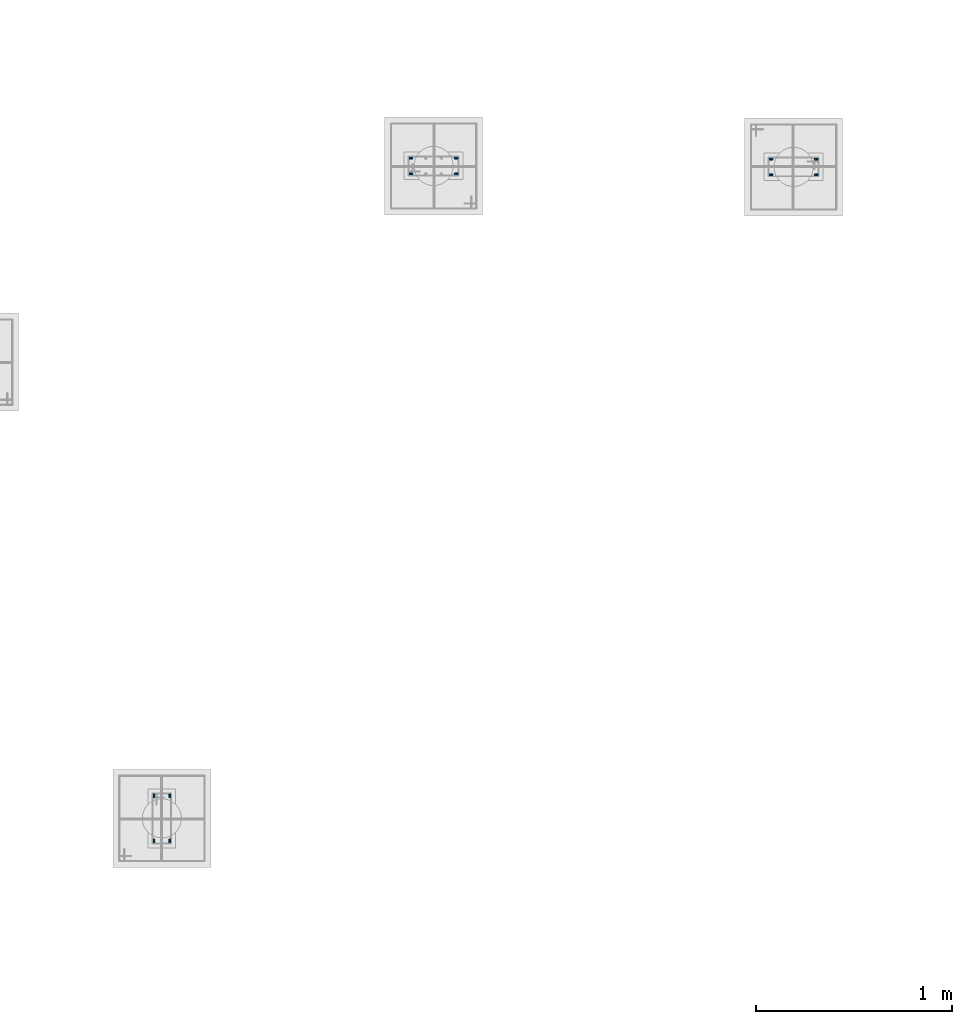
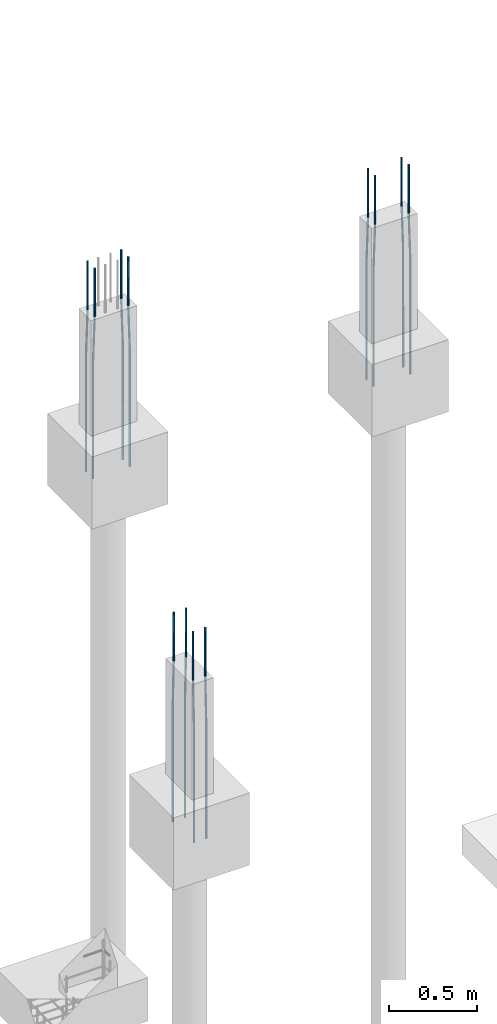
# One storey, part 35 of 119: 12 reinforcing bars.
"""IFC4 building model written with IfcOpenShell, lengths in centimetres."""

import ifcopenshell
import ifcopenshell.guid

model = None  # the IFC model being written
_history = None  # IfcOwnerHistory: only IFC2X3 demands one
_inside = {}  # id of a spatial element -> (the spatial element, [elements in it])
_under = {}  # id of a project, library or spatial element -> (it, [spatial elements below it])
_declared = {}  # id of a project -> (the project, [libraries it declares])
_typed = {}  # id of a type object -> (the type object, [elements of that type])
_made_of = {}  # id of a material, layer set ... -> (it, [elements and type objects made of it])


def new_model(schema):
    """Start an empty IFC model of exactly this schema.

    Asked for "IFC4X3", IfcOpenShell would pick the latest addendum, in which some entities
    have other attributes; the version numbers below select the first issue.
    IFC2X3 requires an IfcOwnerHistory on every rooted entity: one is made here for all.
    """
    global model, _history
    if schema == "IFC4X3":
        model = ifcopenshell.file(schema_version=(4, 3, 0, 0))
    else:
        model = ifcopenshell.file(schema=schema)
    _inside.clear()
    _under.clear()
    _declared.clear()
    _typed.clear()
    _made_of.clear()
    _history = None
    if model.schema == "IFC2X3":
        org = make("IfcOrganization", Name="unknown")
        user = make(
            "IfcPersonAndOrganization",
            ThePerson=make("IfcPerson", FamilyName="unknown"),
            TheOrganization=org,
        )
        app = make(
            "IfcApplication",
            ApplicationDeveloper=org,
            Version="unknown",
            ApplicationFullName="unknown",
            ApplicationIdentifier="unknown",
        )
        _history = make(
            "IfcOwnerHistory",
            OwningUser=user,
            OwningApplication=app,
            ChangeAction="ADDED",
            CreationDate=0,
        )
    return model


def make(cls, **values):
    """One entity of the class cls with the attributes given. An attribute that is None is left unset."""
    return model.create_entity(
        cls, **{name: value for name, value in values.items() if value is not None}
    )


def entity(cls, *values):
    """Any entity or typed value of the class cls, its attributes in the order of the schema. None: left unset."""
    e = model.create_entity(cls)
    for i, value in enumerate(values):
        if value is not None:
            e[i] = value
    return e


def rooted(cls, **values):
    """An entity with a GlobalId (a new one), such as an element, a storey or a relation."""
    return make(cls, GlobalId=ifcopenshell.guid.new(), OwnerHistory=_history, **values)


def si_unit(unit_type, name, prefix=None):
    """IfcSIUnit, for example si_unit("LENGTHUNIT", "METRE", prefix="MILLI")."""
    return make("IfcSIUnit", UnitType=unit_type, Prefix=prefix, Name=name)


def derived_unit(unit_type, elements):
    """IfcDerivedUnit: a product of units, each with its exponent."""
    return make(
        "IfcDerivedUnit",
        Elements=[
            make("IfcDerivedUnitElement", Unit=unit, Exponent=power)
            for unit, power in elements
        ],
        UnitType=unit_type,
    )


def assignment(units):
    """IfcUnitAssignment: the units of a project."""
    return None if units is None else make("IfcUnitAssignment", Units=units)


def point(xyz):
    """IfcCartesianPoint."""
    return None if xyz is None else make("IfcCartesianPoint", Coordinates=xyz)


def direction(xyz):
    """IfcDirection."""
    return None if xyz is None else make("IfcDirection", DirectionRatios=xyz)


def frame(location, z_axis=None, x_axis=None):
    """IfcAxis2Placement3D, a coordinate frame: its origin and axes. An axis left out is left unset."""
    return make(
        "IfcAxis2Placement3D",
        Location=point(location),
        Axis=direction(z_axis),
        RefDirection=direction(x_axis),
    )


def origin_with_axes():
    """The frame at (0, 0, 0) with the z axis (0, 0, 1) and the x axis (1, 0, 0) written out."""
    return frame((0.0, 0.0, 0.0), z_axis=(0.0, 0.0, 1.0), x_axis=(1.0, 0.0, 0.0))


def place(relative_to, where):
    """IfcLocalPlacement: puts the frame where relative to a parent placement (None: the world)."""
    return make(
        "IfcLocalPlacement", PlacementRelTo=relative_to, RelativePlacement=where
    )


def context(
    kind, dimensions, precision=None, world=None, true_north=None, identifier=None
):
    """IfcGeometricRepresentationContext, for example the 3D "Model" context."""
    return make(
        "IfcGeometricRepresentationContext",
        ContextIdentifier=identifier,
        ContextType=kind,
        CoordinateSpaceDimension=dimensions,
        Precision=precision,
        WorldCoordinateSystem=world,
        TrueNorth=true_north,
    )


def project(units=None, contexts=None):
    """IfcProject with its units and contexts."""
    return rooted(
        "IfcProject",
        Name="project",
        RepresentationContexts=contexts,
        UnitsInContext=assignment(units),
    )


def spatial(cls, under=None, at=None, **own):
    """A site, building, storey or space (cls), placed at a placement, below another one or the project."""
    s = rooted(cls, ObjectPlacement=at, **own)
    if under is not None:
        _under.setdefault(under.id(), (under, []))[1].append(s)
    return s


def shape(context_of_items, identifier, shape_type, items):
    """IfcShapeRepresentation: the items that make up one representation, for example the "Body"."""
    return make(
        "IfcShapeRepresentation",
        ContextOfItems=context_of_items,
        RepresentationIdentifier=identifier,
        RepresentationType=shape_type,
        Items=items,
    )


def made_of(thing, what):
    """Note that an element or type object is made of a material, layer set ...; save() writes the relation."""
    if what is not None:
        _made_of.setdefault(what.id(), (what, []))[1].append(thing)
    return thing


def element(
    cls,
    number,
    at=None,
    inside=None,
    cuts=None,
    type_object=None,
    material=None,
    context=None,
    identifier="Body",
    shape_type=None,
    held_by="IfcProductDefinitionShape",
    body=None,
    shapes=None,
    **own,
):
    """One element of the class cls, such as IfcWall. Its Tag is "e" and its number.

    at: its placement. inside: the storey or other place that contains it. cuts: it is an
    opening in that element (IfcRelVoidsElement). A single representation is given by context,
    identifier, shape_type and body (its items); several are given by shapes. held_by: the class
    of the entity that holds the representations. save() writes the other relations.
    """
    e = rooted(cls, Tag="e%d" % number, ObjectPlacement=at, **own)
    if body is not None:
        shapes = [shape(context, identifier, shape_type, body)]
    if shapes is not None:
        e.Representation = make(held_by, Representations=shapes)
    if inside is not None:
        _inside.setdefault(inside.id(), (inside, []))[1].append(e)
    if cuts is not None:
        rooted(
            "IfcRelVoidsElement", RelatingBuildingElement=cuts, RelatedOpeningElement=e
        )
    if type_object is not None:
        _typed.setdefault(type_object.id(), (type_object, []))[1].append(e)
    return made_of(e, material)


def aggregate(whole, parts):
    """IfcRelAggregates: a whole, such as a stair, and the parts it consists of."""
    return rooted("IfcRelAggregates", RelatingObject=whole, RelatedObjects=parts)


def save(model, path):
    """Write the relations noted so far, then the file.

    IfcRelAggregates (storeys below a building ...), IfcRelContainedInSpatialStructure (elements
    in a storey), IfcRelDefinesByType, IfcRelAssociatesMaterial and IfcRelDeclares: one each for
    every whole, place, type object, material and project.
    """
    for whole, parts in _under.values():
        aggregate(whole, parts)
    for where, things in _inside.values():
        rooted(
            "IfcRelContainedInSpatialStructure",
            RelatedElements=things,
            RelatingStructure=where,
        )
    for kind, things in _typed.values():
        rooted("IfcRelDefinesByType", RelatedObjects=things, RelatingType=kind)
    for what, things in _made_of.values():
        rooted("IfcRelAssociatesMaterial", RelatedObjects=things, RelatingMaterial=what)
    for by, libraries in _declared.values():
        rooted("IfcRelDeclares", RelatingContext=by, RelatedDefinitions=libraries)
    model.write(path)


model = new_model("IFC4")

# Units and contexts
model_context = context("Model", 3, precision=1e-05, world=origin_with_axes(), identifier="Body")
ifc_project = project(units=[si_unit("LENGTHUNIT", "METRE", prefix="CENTI"), si_unit("VOLUMEUNIT", "CUBIC_METRE"), si_unit("AREAUNIT", "SQUARE_METRE"), si_unit("POWERUNIT", "WATT"), si_unit("LUMINOUSFLUXUNIT", "LUMEN"), si_unit("ELECTRICCURRENTUNIT", "AMPERE"), si_unit("PRESSUREUNIT", "PASCAL", prefix="KILO"), si_unit("MASSUNIT", "GRAM", prefix="KILO"), si_unit("PLANEANGLEUNIT", "RADIAN"), derived_unit("VOLUMETRICFLOWRATEUNIT", [(si_unit("LENGTHUNIT", "METRE"), 3), (si_unit("TIMEUNIT", "SECOND"), -1)])], contexts=[model_context])

# Site, building, storey
site_placement = place(None, frame((-4000.0, 0.0, 0.0), z_axis=(0.0, 0.0, 1.0), x_axis=(1.0, 0.0, 0.0)))
site = spatial("IfcSite", under=ifc_project, at=site_placement, Name="PADRÃO")
building_placement = place(site_placement, frame((0.0, 0.0, -14.0)))
building = spatial("IfcBuilding", under=site, at=building_placement, Name="CRECHE PRÉ-ESCOLA TIPO 2")
storey_placement = place(building_placement, origin_with_axes())
storey = spatial("IfcBuildingStorey", under=building, at=storey_placement, Name="FUNDAÇÃO", CompositionType="ELEMENT", Elevation=-14.0)

# Reinforcing bars
for number, where, z_axis, x_axis, name in (
    (1, (3384.0, 511.01, 33.3573001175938), (0.0, 0.0, 1.0), (1.0, 0.0, 0.0), "P140 - Longitudinal"),
    (2, (3384.0, 519.01, 33.3573001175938), (0.0, 0.0, 1.0), (1.0, 0.0, 0.0), "P140 - Longitudinal"),
):
    element("IfcReinforcingBar", number, at=place(storey_placement, frame(where, z_axis=z_axis, x_axis=x_axis)), inside=storey, Name=name, BarLength=0.0, CrossSectionArea=7.853981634e-05, NominalDiameter=1.0, PredefinedType="MAIN", context=model_context, shape_type="AdvancedSweptSolid", body=[
        entity("IfcSweptDiskSolid", entity("IfcCompositeCurve", [entity("IfcCompositeCurveSegment", "CONTINUOUS", True, entity("IfcPolyline", [entity("IfcCartesianPoint", [0.5, 0.0, -145.357300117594]), entity("IfcCartesianPoint", [0.5, 0.0, -63.3573001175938])])), entity("IfcCompositeCurveSegment", "CONTINUOUS", True, entity("IfcPolyline", [entity("IfcCartesianPoint", [0.5, 0.0, -63.3573001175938]), entity("IfcCartesianPoint", [-0.5, 0.0, -33.3573001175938])])), entity("IfcCompositeCurveSegment", "CONTINUOUS", True, entity("IfcPolyline", [entity("IfcCartesianPoint", [-0.5, 0.0, -33.3573001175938]), entity("IfcCartesianPoint", [-0.5, 0.0, 0.0])]))], False), 0.5),
    ])
for number, where, z_axis, x_axis, name in (
    (3, (3361.0, 519.01, 33.3573001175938), (0.0, 0.0, 1.0), (1.0, 0.0, 0.0), "P140 - Longitudinal"),
    (4, (3361.0, 511.01, 33.3573001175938), (0.0, 0.0, 1.0), (1.0, 0.0, 0.0), "P140 - Longitudinal"),
    (5, (3544.5, 518.52, 33.3573001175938), (0.0, 0.0, 1.0), (1.0, 0.0, 0.0), "P141 - Longitudinal"),
    (6, (3544.5, 510.52, 33.3573001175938), (0.0, 0.0, 1.0), (1.0, 0.0, 0.0), "P141 - Longitudinal"),
):
    element("IfcReinforcingBar", number, at=place(storey_placement, frame(where, z_axis=z_axis, x_axis=x_axis)), inside=storey, Name=name, BarLength=0.0, CrossSectionArea=7.853981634e-05, NominalDiameter=1.0, PredefinedType="MAIN", context=model_context, shape_type="AdvancedSweptSolid", body=[
        entity("IfcSweptDiskSolid", entity("IfcCompositeCurve", [entity("IfcCompositeCurveSegment", "CONTINUOUS", True, entity("IfcPolyline", [entity("IfcCartesianPoint", [-0.5, 0.0, -145.357300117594]), entity("IfcCartesianPoint", [-0.5, 0.0, -63.3573001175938])])), entity("IfcCompositeCurveSegment", "CONTINUOUS", True, entity("IfcPolyline", [entity("IfcCartesianPoint", [-0.5, 0.0, -63.3573001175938]), entity("IfcCartesianPoint", [0.5, 0.0, -33.3573001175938])])), entity("IfcCompositeCurveSegment", "CONTINUOUS", True, entity("IfcPolyline", [entity("IfcCartesianPoint", [0.5, 0.0, -33.3573001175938]), entity("IfcCartesianPoint", [0.5, 0.0, 0.0])]))], False), 0.5),
    ])
for number, where, z_axis, x_axis, name in (
    (7, (3567.5, 510.52, 33.3573001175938), (0.0, 0.0, 1.0), (1.0, 0.0, 0.0), "P141 - Longitudinal"),
    (8, (3567.5, 518.52, 33.3573001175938), (0.0, 0.0, 1.0), (1.0, 0.0, 0.0), "P141 - Longitudinal"),
):
    element("IfcReinforcingBar", number, at=place(storey_placement, frame(where, z_axis=z_axis, x_axis=x_axis)), inside=storey, Name=name, BarLength=0.0, CrossSectionArea=7.853981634e-05, NominalDiameter=1.0, PredefinedType="MAIN", context=model_context, shape_type="AdvancedSweptSolid", body=[
        entity("IfcSweptDiskSolid", entity("IfcCompositeCurve", [entity("IfcCompositeCurveSegment", "CONTINUOUS", True, entity("IfcPolyline", [entity("IfcCartesianPoint", [0.5, 0.0, -145.357300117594]), entity("IfcCartesianPoint", [0.5, 0.0, -63.3573001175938])])), entity("IfcCompositeCurveSegment", "CONTINUOUS", True, entity("IfcPolyline", [entity("IfcCartesianPoint", [0.5, 0.0, -63.3573001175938]), entity("IfcCartesianPoint", [-0.5, 0.0, -33.3573001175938])])), entity("IfcCompositeCurveSegment", "CONTINUOUS", True, entity("IfcPolyline", [entity("IfcCartesianPoint", [-0.5, 0.0, -33.3573001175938]), entity("IfcCartesianPoint", [-0.5, 0.0, 0.0])]))], False), 0.5),
    ])
reinforcing_bar_1_placement = place(storey_placement, frame((3229.99, 171.0, 33.3573001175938), z_axis=(0.0, 0.0, 1.0), x_axis=(1.0, 0.0, 0.0)))
element("IfcReinforcingBar", 9, at=reinforcing_bar_1_placement, inside=storey, Name="P154 - Longitudinal", BarLength=0.0, CrossSectionArea=7.853981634e-05, NominalDiameter=1.0, PredefinedType="MAIN", context=model_context, shape_type="AdvancedSweptSolid", body=[
    entity("IfcSweptDiskSolid", entity("IfcCompositeCurve", [entity("IfcCompositeCurveSegment", "CONTINUOUS", True, entity("IfcPolyline", [entity("IfcCartesianPoint", [0.0, -0.5, -145.357300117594]), entity("IfcCartesianPoint", [0.0, -0.5, -63.3573001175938])])), entity("IfcCompositeCurveSegment", "CONTINUOUS", True, entity("IfcPolyline", [entity("IfcCartesianPoint", [0.0, -0.5, -63.3573001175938]), entity("IfcCartesianPoint", [0.0, 0.5, -33.3573001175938])])), entity("IfcCompositeCurveSegment", "CONTINUOUS", True, entity("IfcPolyline", [entity("IfcCartesianPoint", [0.0, 0.5, -33.3573001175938]), entity("IfcCartesianPoint", [0.0, 0.5, 0.0])]))], False), 0.5),
])
reinforcing_bar_2_placement = place(storey_placement, frame((3229.99, 194.0, 33.3573001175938), z_axis=(0.0, 0.0, 1.0), x_axis=(1.0, 0.0, 0.0)))
element("IfcReinforcingBar", 10, at=reinforcing_bar_2_placement, inside=storey, Name="P154 - Longitudinal", BarLength=0.0, CrossSectionArea=7.853981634e-05, NominalDiameter=1.0, PredefinedType="MAIN", context=model_context, shape_type="AdvancedSweptSolid", body=[
    entity("IfcSweptDiskSolid", entity("IfcCompositeCurve", [entity("IfcCompositeCurveSegment", "CONTINUOUS", True, entity("IfcPolyline", [entity("IfcCartesianPoint", [0.0, 0.5, -145.357300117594]), entity("IfcCartesianPoint", [0.0, 0.5, -63.3573001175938])])), entity("IfcCompositeCurveSegment", "CONTINUOUS", True, entity("IfcPolyline", [entity("IfcCartesianPoint", [0.0, 0.5, -63.3573001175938]), entity("IfcCartesianPoint", [0.0, -0.5, -33.3573001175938])])), entity("IfcCompositeCurveSegment", "CONTINUOUS", True, entity("IfcPolyline", [entity("IfcCartesianPoint", [0.0, -0.5, -33.3573001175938]), entity("IfcCartesianPoint", [0.0, -0.5, 0.0])]))], False), 0.5),
])
reinforcing_bar_3_placement = place(storey_placement, frame((3237.99, 171.0, 33.3573001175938), z_axis=(0.0, 0.0, 1.0), x_axis=(1.0, 0.0, 0.0)))
element("IfcReinforcingBar", 11, at=reinforcing_bar_3_placement, inside=storey, Name="P154 - Longitudinal", BarLength=0.0, CrossSectionArea=7.853981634e-05, NominalDiameter=1.0, PredefinedType="MAIN", context=model_context, shape_type="AdvancedSweptSolid", body=[
    entity("IfcSweptDiskSolid", entity("IfcCompositeCurve", [entity("IfcCompositeCurveSegment", "CONTINUOUS", True, entity("IfcPolyline", [entity("IfcCartesianPoint", [0.0, -0.5, -145.357300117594]), entity("IfcCartesianPoint", [0.0, -0.5, -63.3573001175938])])), entity("IfcCompositeCurveSegment", "CONTINUOUS", True, entity("IfcPolyline", [entity("IfcCartesianPoint", [0.0, -0.5, -63.3573001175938]), entity("IfcCartesianPoint", [0.0, 0.5, -33.3573001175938])])), entity("IfcCompositeCurveSegment", "CONTINUOUS", True, entity("IfcPolyline", [entity("IfcCartesianPoint", [0.0, 0.5, -33.3573001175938]), entity("IfcCartesianPoint", [0.0, 0.5, 0.0])]))], False), 0.5),
])
reinforcing_bar_4_placement = place(storey_placement, frame((3237.99, 194.0, 33.3573001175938), z_axis=(0.0, 0.0, 1.0), x_axis=(1.0, 0.0, 0.0)))
element("IfcReinforcingBar", 12, at=reinforcing_bar_4_placement, inside=storey, Name="P154 - Longitudinal", BarLength=0.0, CrossSectionArea=7.853981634e-05, NominalDiameter=1.0, PredefinedType="MAIN", context=model_context, shape_type="AdvancedSweptSolid", body=[
    entity("IfcSweptDiskSolid", entity("IfcCompositeCurve", [entity("IfcCompositeCurveSegment", "CONTINUOUS", True, entity("IfcPolyline", [entity("IfcCartesianPoint", [0.0, 0.5, -145.357300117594]), entity("IfcCartesianPoint", [0.0, 0.5, -63.3573001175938])])), entity("IfcCompositeCurveSegment", "CONTINUOUS", True, entity("IfcPolyline", [entity("IfcCartesianPoint", [0.0, 0.5, -63.3573001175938]), entity("IfcCartesianPoint", [0.0, -0.5, -33.3573001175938])])), entity("IfcCompositeCurveSegment", "CONTINUOUS", True, entity("IfcPolyline", [entity("IfcCartesianPoint", [0.0, -0.5, -33.3573001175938]), entity("IfcCartesianPoint", [0.0, -0.5, 0.0])]))], False), 0.5),
])

save(model, "model.ifc")
